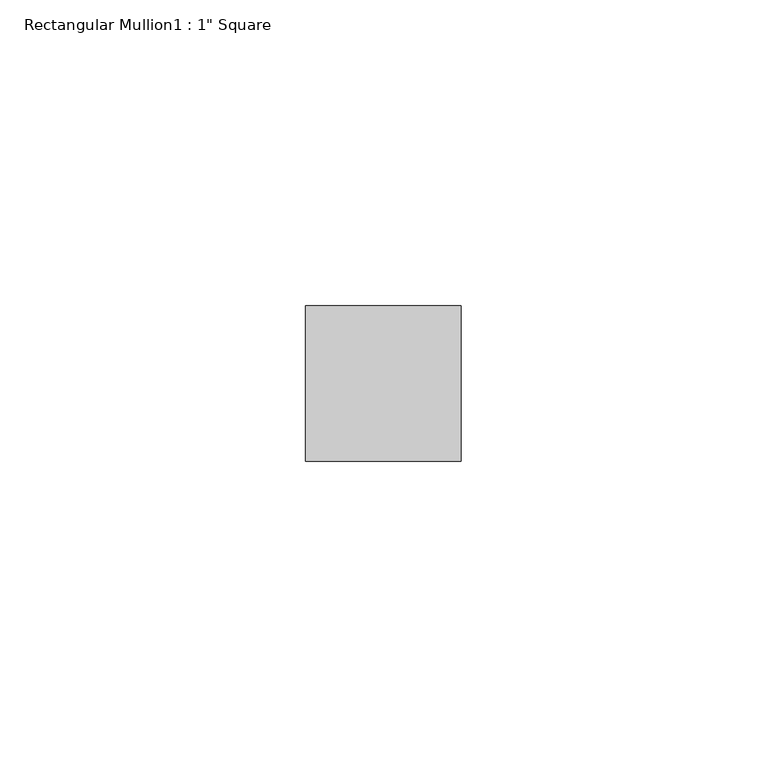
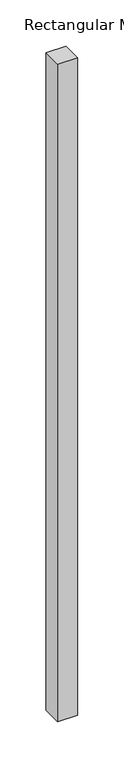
"""IFC4 building model written with IfcOpenShell, lengths in millimetres: member geometry."""

import ifcopenshell
import ifcopenshell.guid

model = None  # the IFC model being written
_history = None  # IfcOwnerHistory: only IFC2X3 demands one
_inside = {}  # id of a spatial element -> (the spatial element, [elements in it])
_under = {}  # id of a project, library or spatial element -> (it, [spatial elements below it])
_declared = {}  # id of a project -> (the project, [libraries it declares])
_typed = {}  # id of a type object -> (the type object, [elements of that type])
_made_of = {}  # id of a material, layer set ... -> (it, [elements and type objects made of it])


def new_model(schema):
    """Start an empty IFC model of exactly this schema.

    Asked for "IFC4X3", IfcOpenShell would pick the latest addendum, in which some entities
    have other attributes; the version numbers below select the first issue.
    IFC2X3 requires an IfcOwnerHistory on every rooted entity: one is made here for all.
    """
    global model, _history
    if schema == "IFC4X3":
        model = ifcopenshell.file(schema_version=(4, 3, 0, 0))
    else:
        model = ifcopenshell.file(schema=schema)
    _inside.clear()
    _under.clear()
    _declared.clear()
    _typed.clear()
    _made_of.clear()
    _history = None
    if model.schema == "IFC2X3":
        org = make("IfcOrganization", Name="unknown")
        user = make(
            "IfcPersonAndOrganization",
            ThePerson=make("IfcPerson", FamilyName="unknown"),
            TheOrganization=org,
        )
        app = make(
            "IfcApplication",
            ApplicationDeveloper=org,
            Version="unknown",
            ApplicationFullName="unknown",
            ApplicationIdentifier="unknown",
        )
        _history = make(
            "IfcOwnerHistory",
            OwningUser=user,
            OwningApplication=app,
            ChangeAction="ADDED",
            CreationDate=0,
        )
    return model


def make(cls, **values):
    """One entity of the class cls with the attributes given. An attribute that is None is left unset."""
    return model.create_entity(
        cls, **{name: value for name, value in values.items() if value is not None}
    )


def rooted(cls, **values):
    """An entity with a GlobalId (a new one), such as an element, a storey or a relation."""
    return make(cls, GlobalId=ifcopenshell.guid.new(), OwnerHistory=_history, **values)


def si_unit(unit_type, name, prefix=None):
    """IfcSIUnit, for example si_unit("LENGTHUNIT", "METRE", prefix="MILLI")."""
    return make("IfcSIUnit", UnitType=unit_type, Prefix=prefix, Name=name)


def assignment(units):
    """IfcUnitAssignment: the units of a project."""
    return None if units is None else make("IfcUnitAssignment", Units=units)


def point(xyz):
    """IfcCartesianPoint."""
    return None if xyz is None else make("IfcCartesianPoint", Coordinates=xyz)


def direction(xyz):
    """IfcDirection."""
    return None if xyz is None else make("IfcDirection", DirectionRatios=xyz)


def frame(location, z_axis=None, x_axis=None):
    """IfcAxis2Placement3D, a coordinate frame: its origin and axes. An axis left out is left unset."""
    return make(
        "IfcAxis2Placement3D",
        Location=point(location),
        Axis=direction(z_axis),
        RefDirection=direction(x_axis),
    )


def origin():
    """The frame at (0, 0, 0) with its axes left unset."""
    return frame((0.0, 0.0, 0.0))


def place(relative_to, where):
    """IfcLocalPlacement: puts the frame where relative to a parent placement (None: the world)."""
    return make(
        "IfcLocalPlacement", PlacementRelTo=relative_to, RelativePlacement=where
    )


def context(
    kind, dimensions, precision=None, world=None, true_north=None, identifier=None
):
    """IfcGeometricRepresentationContext, for example the 3D "Model" context."""
    return make(
        "IfcGeometricRepresentationContext",
        ContextIdentifier=identifier,
        ContextType=kind,
        CoordinateSpaceDimension=dimensions,
        Precision=precision,
        WorldCoordinateSystem=world,
        TrueNorth=true_north,
    )


def project(units=None, contexts=None):
    """IfcProject with its units and contexts."""
    return rooted(
        "IfcProject",
        Name="project",
        RepresentationContexts=contexts,
        UnitsInContext=assignment(units),
    )


def spatial(cls, under=None, at=None, **own):
    """A site, building, storey or space (cls), placed at a placement, below another one or the project."""
    s = rooted(cls, ObjectPlacement=at, **own)
    if under is not None:
        _under.setdefault(under.id(), (under, []))[1].append(s)
    return s


def polyline(points):
    """IfcPolyline through the points."""
    return make("IfcPolyline", Points=[point(p) for p in points])


def outline(outer, holes=None, kind="AREA"):
    """IfcArbitraryClosedProfileDef: a profile drawn as a closed curve; with holes, ...WithVoids."""
    if holes is None:
        return make("IfcArbitraryClosedProfileDef", ProfileType=kind, OuterCurve=outer)
    return make(
        "IfcArbitraryProfileDefWithVoids",
        ProfileType=kind,
        OuterCurve=outer,
        InnerCurves=holes,
    )


def extrude(swept, where, along, depth):
    """IfcExtrudedAreaSolid: the profile swept, set in the frame where, extruded along a direction by depth."""
    return make(
        "IfcExtrudedAreaSolid",
        SweptArea=swept,
        Position=where,
        ExtrudedDirection=direction(along),
        Depth=depth,
    )


def shape(context_of_items, identifier, shape_type, items):
    """IfcShapeRepresentation: the items that make up one representation, for example the "Body"."""
    return make(
        "IfcShapeRepresentation",
        ContextOfItems=context_of_items,
        RepresentationIdentifier=identifier,
        RepresentationType=shape_type,
        Items=items,
    )


def source(mapping_origin, context_of_items, identifier, shape_type, items):
    """IfcRepresentationMap: a shape defined once, which mapped items show again and again."""
    return make(
        "IfcRepresentationMap",
        MappingOrigin=mapping_origin,
        MappedRepresentation=shape(context_of_items, identifier, shape_type, items),
    )


def transform(
    local_origin,
    x_axis=None,
    y_axis=None,
    z_axis=None,
    scale=None,
    scale2=None,
    scale3=None,
    uniform=True,
):
    """IfcCartesianTransformationOperator3D, or its non-uniform kind. x_axis, y_axis, z_axis: its Axis1, 2, 3."""
    if uniform:
        return make(
            "IfcCartesianTransformationOperator3D",
            Axis1=direction(x_axis),
            Axis2=direction(y_axis),
            LocalOrigin=point(local_origin),
            Scale=scale,
            Axis3=direction(z_axis),
        )
    return make(
        "IfcCartesianTransformationOperator3DnonUniform",
        Axis1=direction(x_axis),
        Axis2=direction(y_axis),
        LocalOrigin=point(local_origin),
        Scale=scale,
        Axis3=direction(z_axis),
        Scale2=scale2,
        Scale3=scale3,
    )


def mapped(mapping_source, mapping_target):
    """IfcMappedItem: shows the shape of a source again, moved by a transform."""
    return make(
        "IfcMappedItem", MappingSource=mapping_source, MappingTarget=mapping_target
    )


def made_of(thing, what):
    """Note that an element or type object is made of a material, layer set ...; save() writes the relation."""
    if what is not None:
        _made_of.setdefault(what.id(), (what, []))[1].append(thing)
    return thing


def element(
    cls,
    number,
    at=None,
    inside=None,
    cuts=None,
    type_object=None,
    material=None,
    context=None,
    identifier="Body",
    shape_type=None,
    held_by="IfcProductDefinitionShape",
    body=None,
    shapes=None,
    **own,
):
    """One element of the class cls, such as IfcWall. Its Tag is "e" and its number.

    at: its placement. inside: the storey or other place that contains it. cuts: it is an
    opening in that element (IfcRelVoidsElement). A single representation is given by context,
    identifier, shape_type and body (its items); several are given by shapes. held_by: the class
    of the entity that holds the representations. save() writes the other relations.
    """
    e = rooted(cls, Tag="e%d" % number, ObjectPlacement=at, **own)
    if body is not None:
        shapes = [shape(context, identifier, shape_type, body)]
    if shapes is not None:
        e.Representation = make(held_by, Representations=shapes)
    if inside is not None:
        _inside.setdefault(inside.id(), (inside, []))[1].append(e)
    if cuts is not None:
        rooted(
            "IfcRelVoidsElement", RelatingBuildingElement=cuts, RelatedOpeningElement=e
        )
    if type_object is not None:
        _typed.setdefault(type_object.id(), (type_object, []))[1].append(e)
    return made_of(e, material)


def aggregate(whole, parts):
    """IfcRelAggregates: a whole, such as a stair, and the parts it consists of."""
    return rooted("IfcRelAggregates", RelatingObject=whole, RelatedObjects=parts)


def save(model, path):
    """Write the relations noted so far, then the file.

    IfcRelAggregates (storeys below a building ...), IfcRelContainedInSpatialStructure (elements
    in a storey), IfcRelDefinesByType, IfcRelAssociatesMaterial and IfcRelDeclares: one each for
    every whole, place, type object, material and project.
    """
    for whole, parts in _under.values():
        aggregate(whole, parts)
    for where, things in _inside.values():
        rooted(
            "IfcRelContainedInSpatialStructure",
            RelatedElements=things,
            RelatingStructure=where,
        )
    for kind, things in _typed.values():
        rooted("IfcRelDefinesByType", RelatedObjects=things, RelatingType=kind)
    for what, things in _made_of.values():
        rooted("IfcRelAssociatesMaterial", RelatedObjects=things, RelatingMaterial=what)
    for by, libraries in _declared.values():
        rooted("IfcRelDeclares", RelatingContext=by, RelatedDefinitions=libraries)
    model.write(path)


def member_fbd506e6(model_context):
    return source(origin(), model_context, "Body", "SweptSolid", [
        extrude(outline(polyline([(12.7, -19.05), (12.7, -44.45), (-12.7, -44.45), (-12.7, -19.05), (12.7, -19.05)])), frame((0.0, 0.0, -871.9298259), z_axis=(0.0, 0.0, 1.0), x_axis=(1.0, 0.0, 0.0)), (0.0, 0.0, 1.0), 871.9298259),
    ])


if __name__ == "__main__":
    model = new_model("IFC4")
    model_context = context("Model", 3, world=origin())
    ifc_project = project(units=[si_unit("LENGTHUNIT", "METRE", prefix="MILLI")], contexts=[model_context])
    site = spatial("IfcSite", under=ifc_project)
    building = spatial("IfcBuilding", under=site)
    placement = place(None, origin())
    member_shape = member_fbd506e6(model_context)
    element("IfcMember", 1, ObjectType="Rectangular Mullion1 : 1\" Square", at=placement, inside=building, context=model_context, shape_type="MappedRepresentation", body=[
        mapped(member_shape, transform((0.0, 0.0, 0.0), x_axis=(1.0, 0.0, 0.0), y_axis=(0.0, 1.0, 0.0), z_axis=(0.0, 0.0, 1.0))),
    ])
    save(model, "model.ifc")
